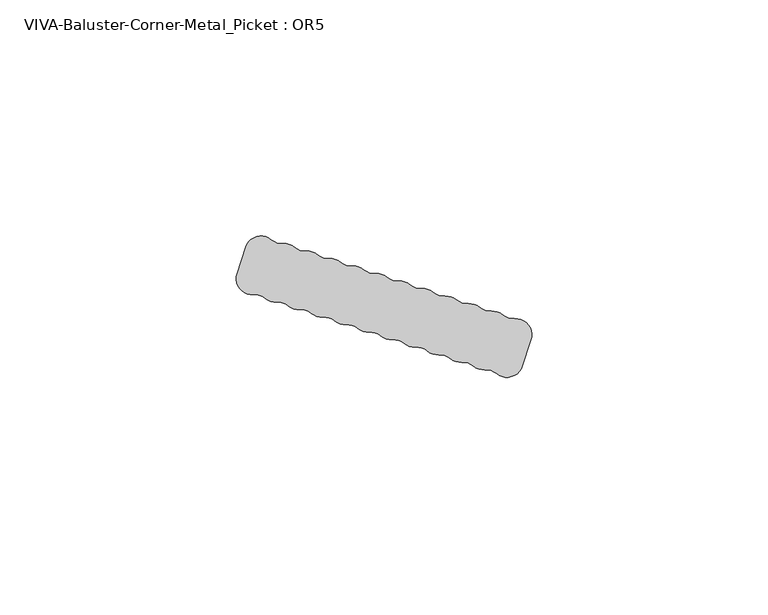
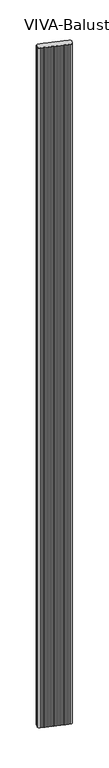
"""IFC4 building model written with IfcOpenShell, lengths in millimetres: railing geometry, VIVA-Baluster-Corner-Metal_Picket : OR5."""

from ifc_helpers import new_model, si_unit, frame, origin, place, context, project, spatial, polyline, circle_curve, source, transform, mapped, element, save
from ifc_brep_helpers import plane_surface, cylinder_surface, revolved_surface, advanced_brep


def viva_baluster_corner_metal_picket_or5_7f4c381b(model_context):
    return source(origin(), model_context, "Body", "AdvancedBrep", [
        advanced_brep(
        [(54.1877137, 238.5610945, 1219.2), (55.9877943, 244.1011728, 1219.2), (52.4796392, 248.5924811, 1219.2), (50.0317415, 249.3878513, 1219.2), (47.5838438, 250.1832215, 1219.2), (45.1359461, 250.9785917, 1219.2), (42.6880484, 251.7739618, 1219.2), (40.2401507, 252.569332, 1219.2), (37.792253, 253.3647022, 1219.2), (35.3443553, 254.1600724, 1219.2), (32.8964576, 254.9554425, 1219.2), (30.4485599, 255.7508127, 1219.2), (28.0006622, 256.5461829, 1219.2), (25.5527645, 257.3415531, 1219.2), (23.1048668, 258.1369232, 1219.2), (20.6569691, 258.9322934, 1219.2), (18.2090714, 259.7276636, 1219.2), (15.7611737, 260.5230338, 1219.2), (13.313276, 261.318404, 1219.2), (10.8653783, 262.1137741, 1219.2), (8.4174806, 262.9091443, 1219.2), (5.9695829, 263.7045145, 1219.2), (3.5216852, 264.4998847, 1219.2), (1.0737875, 265.2952548, 1219.2), (-4.4042945, 263.723752, 1219.2), (-6.204375, 258.1836736, 1219.2), (-2.6962199, 253.6923653, 1219.2), (-0.2483222, 252.8969952, 1219.2), (2.1995755, 252.101625, 1219.2), (4.6474732, 251.3062548, 1219.2), (7.0953709, 250.5108846, 1219.2), (9.5432686, 249.7155145, 1219.2), (11.9911663, 248.9201443, 1219.2), (14.439064, 248.1247741, 1219.2), (16.8869617, 247.3294039, 1219.2), (19.3348594, 246.5340337, 1219.2), (21.7827571, 245.7386636, 1219.2), (24.2306548, 244.9432934, 1219.2), (26.6785525, 244.1479232, 1219.2), (29.1264502, 243.352553, 1219.2), (31.5743479, 242.5571829, 1219.2), (34.0222456, 241.7618127, 1219.2), (36.4701433, 240.9664425, 1219.2), (38.918041, 240.1710723, 1219.2), (41.3659387, 239.3757022, 1219.2), (43.8138364, 238.580332, 1219.2), (46.2617341, 237.7849618, 1219.2), (48.7096318, 236.9895916, 1219.2), (54.1877137, 238.5610945, -245.8945017), (48.7096318, 236.9895916, -245.8945017), (46.2617341, 237.7849618, -245.8945017), (43.8138364, 238.580332, -245.8945017), (41.3659387, 239.3757022, -245.8945017), (38.918041, 240.1710723, -245.8945017), (36.4701433, 240.9664425, -245.8945017), (34.0222456, 241.7618127, -245.8945017), (31.5743479, 242.5571829, -245.8945017), (29.1264502, 243.352553, -245.8945017), (26.6785525, 244.1479232, -245.8945017), (24.2306548, 244.9432934, -245.8945017), (21.7827571, 245.7386636, -245.8945017), (19.3348594, 246.5340337, -245.8945017), (16.8869617, 247.3294039, -245.8945017), (14.439064, 248.1247741, -245.8945017), (11.9911663, 248.9201443, -245.8945017), (9.5432686, 249.7155145, -245.8945017), (7.0953709, 250.5108846, -245.8945017), (4.6474732, 251.3062548, -245.8945017), (2.1995755, 252.101625, -245.8945017), (-0.2483222, 252.8969952, -245.8945017), (-2.6962199, 253.6923653, -245.8945017), (-6.204375, 258.1836736, -245.8945017), (-4.4042945, 263.723752, -245.8945017), (1.0737875, 265.2952548, -245.8945017), (3.5216852, 264.4998847, -245.8945017), (5.9695829, 263.7045145, -245.8945017), (8.4174806, 262.9091443, -245.8945017), (10.8653783, 262.1137741, -245.8945017), (13.313276, 261.318404, -245.8945017), (15.7611737, 260.5230338, -245.8945017), (18.2090714, 259.7276636, -245.8945017), (20.6569691, 258.9322934, -245.8945017), (23.1048668, 258.1369232, -245.8945017), (25.5527645, 257.3415531, -245.8945017), (28.0006622, 256.5461829, -245.8945017), (30.4485599, 255.7508127, -245.8945017), (32.8964576, 254.9554425, -245.8945017), (35.3443553, 254.1600724, -245.8945017), (37.792253, 253.3647022, -245.8945017), (40.2401507, 252.569332, -245.8945017), (42.6880484, 251.7739618, -245.8945017), (45.1359461, 250.9785917, -245.8945017), (47.5838438, 250.1832215, -245.8945017), (50.0317415, 249.3878513, -245.8945017), (52.4796392, 248.5924811, -245.8945017), (55.9877943, 244.1011728, -245.8945017)],
        [
            (0, 1),
            (1, 2, circle_curve(frame((52.7186246, 245.1633905, 1219.2), z_axis=(0.0, 0.0, 1.0), x_axis=(1.0, 0.0, 0.0)), 3.4374084)),
            (2, 3, circle_curve(frame((52.2406537, 252.0215718, 1219.2), z_axis=(0.0, 0.0, -1.0), x_axis=(1.0, 0.0, 0.0)), 3.4374084)),
            (3, 4, circle_curve(frame((47.8228292, 246.7541308, 1219.2), z_axis=(0.0, 0.0, 1.0), x_axis=(1.0, 0.0, 0.0)), 3.4374084)),
            (4, 5, circle_curve(frame((47.3448583, 253.6123121, 1219.2), z_axis=(0.0, 0.0, -1.0), x_axis=(1.0, 0.0, 0.0)), 3.4374084)),
            (5, 6, circle_curve(frame((42.9270338, 248.3448712, 1219.2), z_axis=(0.0, 0.0, 1.0), x_axis=(1.0, 0.0, 0.0)), 3.4374084)),
            (6, 7, circle_curve(frame((42.4490629, 255.2030525, 1219.2), z_axis=(0.0, 0.0, -1.0), x_axis=(1.0, 0.0, 0.0)), 3.4374084)),
            (7, 8, circle_curve(frame((38.0312384, 249.9356115, 1219.2), z_axis=(0.0, 0.0, 1.0), x_axis=(1.0, 0.0, 0.0)), 3.4374084)),
            (8, 9, circle_curve(frame((37.5532675, 256.7937928, 1219.2), z_axis=(0.0, 0.0, -1.0), x_axis=(1.0, 0.0, 0.0)), 3.4374084)),
            (9, 10, circle_curve(frame((33.135443, 251.5263519, 1219.2), z_axis=(0.0, 0.0, 1.0), x_axis=(1.0, 0.0, 0.0)), 3.4374084)),
            (10, 11, circle_curve(frame((32.6574721, 258.3845332, 1219.2), z_axis=(0.0, 0.0, -1.0), x_axis=(1.0, 0.0, 0.0)), 3.4374084)),
            (11, 12, circle_curve(frame((28.2396476, 253.1170922, 1219.2), z_axis=(0.0, 0.0, 1.0), x_axis=(1.0, 0.0, 0.0)), 3.4374084)),
            (12, 13, circle_curve(frame((27.7616767, 259.9752735, 1219.2), z_axis=(0.0, 0.0, -1.0), x_axis=(1.0, 0.0, 0.0)), 3.4374084)),
            (13, 14, circle_curve(frame((23.3438522, 254.7078326, 1219.2), z_axis=(0.0, 0.0, 1.0), x_axis=(1.0, 0.0, 0.0)), 3.4374084)),
            (14, 15, circle_curve(frame((22.8658813, 261.5660139, 1219.2), z_axis=(0.0, 0.0, -1.0), x_axis=(1.0, 0.0, 0.0)), 3.4374084)),
            (15, 16, circle_curve(frame((18.4480568, 256.298573, 1219.2), z_axis=(0.0, 0.0, 1.0), x_axis=(1.0, 0.0, 0.0)), 3.4374084)),
            (16, 17, circle_curve(frame((17.9700859, 263.1567543, 1219.2), z_axis=(0.0, 0.0, -1.0), x_axis=(1.0, 0.0, 0.0)), 3.4374084)),
            (17, 18, circle_curve(frame((13.5522614, 257.8893133, 1219.2), z_axis=(0.0, 0.0, 1.0), x_axis=(1.0, 0.0, 0.0)), 3.4374084)),
            (18, 19, circle_curve(frame((13.0742905, 264.7474946, 1219.2), z_axis=(0.0, 0.0, -1.0), x_axis=(1.0, 0.0, 0.0)), 3.4374084)),
            (19, 20, circle_curve(frame((8.656466, 259.4800537, 1219.2), z_axis=(0.0, 0.0, 1.0), x_axis=(1.0, 0.0, 0.0)), 3.4374084)),
            (20, 21, circle_curve(frame((8.1784951, 266.338235, 1219.2), z_axis=(0.0, 0.0, -1.0), x_axis=(1.0, 0.0, 0.0)), 3.4374084)),
            (21, 22, circle_curve(frame((3.7606706, 261.070794, 1219.2), z_axis=(0.0, 0.0, 1.0), x_axis=(1.0, 0.0, 0.0)), 3.4374084)),
            (22, 23, circle_curve(frame((3.2826997, 267.9289753, 1219.2), z_axis=(0.0, 0.0, -1.0), x_axis=(1.0, 0.0, 0.0)), 3.4374084)),
            (23, 24, circle_curve(frame((-1.1351248, 262.6615344, 1219.2), z_axis=(0.0, 0.0, 1.0), x_axis=(1.0, 0.0, 0.0)), 3.4374084)),
            (24, 25),
            (25, 26, circle_curve(frame((-2.9352053, 257.121456, 1219.2), z_axis=(0.0, 0.0, 1.0), x_axis=(1.0, 0.0, 0.0)), 3.4374084)),
            (26, 27, circle_curve(frame((-2.4572344, 250.2632747, 1219.2), z_axis=(0.0, 0.0, -1.0), x_axis=(1.0, 0.0, 0.0)), 3.4374084)),
            (27, 28, circle_curve(frame((1.9605901, 255.5307156, 1219.2), z_axis=(0.0, 0.0, 1.0), x_axis=(1.0, 0.0, 0.0)), 3.4374084)),
            (28, 29, circle_curve(frame((2.438561, 248.6725343, 1219.2), z_axis=(0.0, 0.0, -1.0), x_axis=(1.0, 0.0, 0.0)), 3.4374084)),
            (29, 30, circle_curve(frame((6.8563855, 253.9399753, 1219.2), z_axis=(0.0, 0.0, 1.0), x_axis=(1.0, 0.0, 0.0)), 3.4374084)),
            (30, 31, circle_curve(frame((7.3343564, 247.081794, 1219.2), z_axis=(0.0, 0.0, -1.0), x_axis=(1.0, 0.0, 0.0)), 3.4374084)),
            (31, 32, circle_curve(frame((11.7521809, 252.3492349, 1219.2), z_axis=(0.0, 0.0, 1.0), x_axis=(1.0, 0.0, 0.0)), 3.4374084)),
            (32, 33, circle_curve(frame((12.2301518, 245.4910536, 1219.2), z_axis=(0.0, 0.0, -1.0), x_axis=(1.0, 0.0, 0.0)), 3.4374084)),
            (33, 34, circle_curve(frame((16.6479763, 250.7584946, 1219.2), z_axis=(0.0, 0.0, 1.0), x_axis=(1.0, 0.0, 0.0)), 3.4374084)),
            (34, 35, circle_curve(frame((17.1259472, 243.9003133, 1219.2), z_axis=(0.0, 0.0, -1.0), x_axis=(1.0, 0.0, 0.0)), 3.4374084)),
            (35, 36, circle_curve(frame((21.5437717, 249.1677542, 1219.2), z_axis=(0.0, 0.0, 1.0), x_axis=(1.0, 0.0, 0.0)), 3.4374084)),
            (36, 37, circle_curve(frame((22.0217426, 242.3095729, 1219.2), z_axis=(0.0, 0.0, -1.0), x_axis=(1.0, 0.0, 0.0)), 3.4374084)),
            (37, 38, circle_curve(frame((26.4395671, 247.5770139, 1219.2), z_axis=(0.0, 0.0, 1.0), x_axis=(1.0, 0.0, 0.0)), 3.4374084)),
            (38, 39, circle_curve(frame((26.917538, 240.7188326, 1219.2), z_axis=(0.0, 0.0, -1.0), x_axis=(1.0, 0.0, 0.0)), 3.4374084)),
            (39, 40, circle_curve(frame((31.3353625, 245.9862735, 1219.2), z_axis=(0.0, 0.0, 1.0), x_axis=(1.0, 0.0, 0.0)), 3.4374084)),
            (40, 41, circle_curve(frame((31.8133334, 239.1280922, 1219.2), z_axis=(0.0, 0.0, -1.0), x_axis=(1.0, 0.0, 0.0)), 3.4374084)),
            (41, 42, circle_curve(frame((36.2311579, 244.3955332, 1219.2), z_axis=(0.0, 0.0, 1.0), x_axis=(1.0, 0.0, 0.0)), 3.4374084)),
            (42, 43, circle_curve(frame((36.7091288, 237.5373519, 1219.2), z_axis=(0.0, 0.0, -1.0), x_axis=(1.0, 0.0, 0.0)), 3.4374084)),
            (43, 44, circle_curve(frame((41.1269533, 242.8047928, 1219.2), z_axis=(0.0, 0.0, 1.0), x_axis=(1.0, 0.0, 0.0)), 3.4374084)),
            (44, 45, circle_curve(frame((41.6049242, 235.9466115, 1219.2), z_axis=(0.0, 0.0, -1.0), x_axis=(1.0, 0.0, 0.0)), 3.4374084)),
            (45, 46, circle_curve(frame((46.0227487, 241.2140525, 1219.2), z_axis=(0.0, 0.0, 1.0), x_axis=(1.0, 0.0, 0.0)), 3.4374084)),
            (46, 47, circle_curve(frame((46.5007196, 234.3558712, 1219.2), z_axis=(0.0, 0.0, -1.0), x_axis=(1.0, 0.0, 0.0)), 3.4374084)),
            (47, 0, circle_curve(frame((50.9185441, 239.6233121, 1219.2), z_axis=(0.0, 0.0, 1.0), x_axis=(1.0, 0.0, 0.0)), 3.4374084)),
            (48, 49, circle_curve(frame((50.9185441, 239.6233121, -245.8945017), z_axis=(0.0, 0.0, -1.0), x_axis=(1.0, 0.0, 0.0)), 3.4374084)),
            (49, 50, circle_curve(frame((46.5007196, 234.3558712, -245.8945017), z_axis=(0.0, 0.0, 1.0), x_axis=(1.0, 0.0, 0.0)), 3.4374084)),
            (50, 51, circle_curve(frame((46.0227487, 241.2140525, -245.8945017), z_axis=(0.0, 0.0, -1.0), x_axis=(1.0, 0.0, 0.0)), 3.4374084)),
            (51, 52, circle_curve(frame((41.6049242, 235.9466115, -245.8945017), z_axis=(0.0, 0.0, 1.0), x_axis=(1.0, 0.0, 0.0)), 3.4374084)),
            (52, 53, circle_curve(frame((41.1269533, 242.8047928, -245.8945017), z_axis=(0.0, 0.0, -1.0), x_axis=(1.0, 0.0, 0.0)), 3.4374084)),
            (53, 54, circle_curve(frame((36.7091288, 237.5373519, -245.8945017), z_axis=(0.0, 0.0, 1.0), x_axis=(1.0, 0.0, 0.0)), 3.4374084)),
            (54, 55, circle_curve(frame((36.2311579, 244.3955332, -245.8945017), z_axis=(0.0, 0.0, -1.0), x_axis=(1.0, 0.0, 0.0)), 3.4374084)),
            (55, 56, circle_curve(frame((31.8133334, 239.1280922, -245.8945017), z_axis=(0.0, 0.0, 1.0), x_axis=(1.0, 0.0, 0.0)), 3.4374084)),
            (56, 57, circle_curve(frame((31.3353625, 245.9862735, -245.8945017), z_axis=(0.0, 0.0, -1.0), x_axis=(1.0, 0.0, 0.0)), 3.4374084)),
            (57, 58, circle_curve(frame((26.917538, 240.7188326, -245.8945017), z_axis=(0.0, 0.0, 1.0), x_axis=(1.0, 0.0, 0.0)), 3.4374084)),
            (58, 59, circle_curve(frame((26.4395671, 247.5770139, -245.8945017), z_axis=(0.0, 0.0, -1.0), x_axis=(1.0, 0.0, 0.0)), 3.4374084)),
            (59, 60, circle_curve(frame((22.0217426, 242.3095729, -245.8945017), z_axis=(0.0, 0.0, 1.0), x_axis=(1.0, 0.0, 0.0)), 3.4374084)),
            (60, 61, circle_curve(frame((21.5437717, 249.1677542, -245.8945017), z_axis=(0.0, 0.0, -1.0), x_axis=(1.0, 0.0, 0.0)), 3.4374084)),
            (61, 62, circle_curve(frame((17.1259472, 243.9003133, -245.8945017), z_axis=(0.0, 0.0, 1.0), x_axis=(1.0, 0.0, 0.0)), 3.4374084)),
            (62, 63, circle_curve(frame((16.6479763, 250.7584946, -245.8945017), z_axis=(0.0, 0.0, -1.0), x_axis=(1.0, 0.0, 0.0)), 3.4374084)),
            (63, 64, circle_curve(frame((12.2301518, 245.4910536, -245.8945017), z_axis=(0.0, 0.0, 1.0), x_axis=(1.0, 0.0, 0.0)), 3.4374084)),
            (64, 65, circle_curve(frame((11.7521809, 252.3492349, -245.8945017), z_axis=(0.0, 0.0, -1.0), x_axis=(1.0, 0.0, 0.0)), 3.4374084)),
            (65, 66, circle_curve(frame((7.3343564, 247.081794, -245.8945017), z_axis=(0.0, 0.0, 1.0), x_axis=(1.0, 0.0, 0.0)), 3.4374084)),
            (66, 67, circle_curve(frame((6.8563855, 253.9399753, -245.8945017), z_axis=(0.0, 0.0, -1.0), x_axis=(1.0, 0.0, 0.0)), 3.4374084)),
            (67, 68, circle_curve(frame((2.438561, 248.6725343, -245.8945017), z_axis=(0.0, 0.0, 1.0), x_axis=(1.0, 0.0, 0.0)), 3.4374084)),
            (68, 69, circle_curve(frame((1.9605901, 255.5307156, -245.8945017), z_axis=(0.0, 0.0, -1.0), x_axis=(1.0, 0.0, 0.0)), 3.4374084)),
            (69, 70, circle_curve(frame((-2.4572344, 250.2632747, -245.8945017), z_axis=(0.0, 0.0, 1.0), x_axis=(1.0, 0.0, 0.0)), 3.4374084)),
            (70, 71, circle_curve(frame((-2.9352053, 257.121456, -245.8945017), z_axis=(0.0, 0.0, -1.0), x_axis=(1.0, 0.0, 0.0)), 3.4374084)),
            (71, 72),
            (72, 73, circle_curve(frame((-1.1351248, 262.6615344, -245.8945017), z_axis=(0.0, 0.0, -1.0), x_axis=(1.0, 0.0, 0.0)), 3.4374084)),
            (73, 74, circle_curve(frame((3.2826997, 267.9289753, -245.8945017), z_axis=(0.0, 0.0, 1.0), x_axis=(1.0, 0.0, 0.0)), 3.4374084)),
            (74, 75, circle_curve(frame((3.7606706, 261.070794, -245.8945017), z_axis=(0.0, 0.0, -1.0), x_axis=(1.0, 0.0, 0.0)), 3.4374084)),
            (75, 76, circle_curve(frame((8.1784951, 266.338235, -245.8945017), z_axis=(0.0, 0.0, 1.0), x_axis=(1.0, 0.0, 0.0)), 3.4374084)),
            (76, 77, circle_curve(frame((8.656466, 259.4800537, -245.8945017), z_axis=(0.0, 0.0, -1.0), x_axis=(1.0, 0.0, 0.0)), 3.4374084)),
            (77, 78, circle_curve(frame((13.0742905, 264.7474946, -245.8945017), z_axis=(0.0, 0.0, 1.0), x_axis=(1.0, 0.0, 0.0)), 3.4374084)),
            (78, 79, circle_curve(frame((13.5522614, 257.8893133, -245.8945017), z_axis=(0.0, 0.0, -1.0), x_axis=(1.0, 0.0, 0.0)), 3.4374084)),
            (79, 80, circle_curve(frame((17.9700859, 263.1567543, -245.8945017), z_axis=(0.0, 0.0, 1.0), x_axis=(1.0, 0.0, 0.0)), 3.4374084)),
            (80, 81, circle_curve(frame((18.4480568, 256.298573, -245.8945017), z_axis=(0.0, 0.0, -1.0), x_axis=(1.0, 0.0, 0.0)), 3.4374084)),
            (81, 82, circle_curve(frame((22.8658813, 261.5660139, -245.8945017), z_axis=(0.0, 0.0, 1.0), x_axis=(1.0, 0.0, 0.0)), 3.4374084)),
            (82, 83, circle_curve(frame((23.3438522, 254.7078326, -245.8945017), z_axis=(0.0, 0.0, -1.0), x_axis=(1.0, 0.0, 0.0)), 3.4374084)),
            (83, 84, circle_curve(frame((27.7616767, 259.9752735, -245.8945017), z_axis=(0.0, 0.0, 1.0), x_axis=(1.0, 0.0, 0.0)), 3.4374084)),
            (84, 85, circle_curve(frame((28.2396476, 253.1170922, -245.8945017), z_axis=(0.0, 0.0, -1.0), x_axis=(1.0, 0.0, 0.0)), 3.4374084)),
            (85, 86, circle_curve(frame((32.6574721, 258.3845332, -245.8945017), z_axis=(0.0, 0.0, 1.0), x_axis=(1.0, 0.0, 0.0)), 3.4374084)),
            (86, 87, circle_curve(frame((33.135443, 251.5263519, -245.8945017), z_axis=(0.0, 0.0, -1.0), x_axis=(1.0, 0.0, 0.0)), 3.4374084)),
            (87, 88, circle_curve(frame((37.5532675, 256.7937928, -245.8945017), z_axis=(0.0, 0.0, 1.0), x_axis=(1.0, 0.0, 0.0)), 3.4374084)),
            (88, 89, circle_curve(frame((38.0312384, 249.9356115, -245.8945017), z_axis=(0.0, 0.0, -1.0), x_axis=(1.0, 0.0, 0.0)), 3.4374084)),
            (89, 90, circle_curve(frame((42.4490629, 255.2030525, -245.8945017), z_axis=(0.0, 0.0, 1.0), x_axis=(1.0, 0.0, 0.0)), 3.4374084)),
            (90, 91, circle_curve(frame((42.9270338, 248.3448712, -245.8945017), z_axis=(0.0, 0.0, -1.0), x_axis=(1.0, 0.0, 0.0)), 3.4374084)),
            (91, 92, circle_curve(frame((47.3448583, 253.6123121, -245.8945017), z_axis=(0.0, 0.0, 1.0), x_axis=(1.0, 0.0, 0.0)), 3.4374084)),
            (92, 93, circle_curve(frame((47.8228292, 246.7541308, -245.8945017), z_axis=(0.0, 0.0, -1.0), x_axis=(1.0, 0.0, 0.0)), 3.4374084)),
            (93, 94, circle_curve(frame((52.2406537, 252.0215718, -245.8945017), z_axis=(0.0, 0.0, 1.0), x_axis=(1.0, 0.0, 0.0)), 3.4374084)),
            (94, 95, circle_curve(frame((52.7186246, 245.1633905, -245.8945017), z_axis=(0.0, 0.0, -1.0), x_axis=(1.0, 0.0, 0.0)), 3.4374084)),
            (95, 48),
            (0, 48),
            (95, 1),
            (94, 2),
            (93, 3),
            (92, 4),
            (91, 5),
            (90, 6),
            (89, 7),
            (88, 8),
            (87, 9),
            (86, 10),
            (85, 11),
            (84, 12),
            (83, 13),
            (82, 14),
            (81, 15),
            (80, 16),
            (79, 17),
            (78, 18),
            (77, 19),
            (76, 20),
            (75, 21),
            (74, 22),
            (73, 23),
            (72, 24),
            (71, 25),
            (70, 26),
            (69, 27),
            (68, 28),
            (67, 29),
            (66, 30),
            (65, 31),
            (64, 32),
            (63, 33),
            (62, 34),
            (61, 35),
            (60, 36),
            (59, 37),
            (58, 38),
            (57, 39),
            (56, 40),
            (55, 41),
            (54, 42),
            (53, 43),
            (52, 44),
            (51, 45),
            (50, 46),
            (49, 47),
        ],
        [
            plane_surface(frame((54.1877137, 238.5610945, 1219.2), z_axis=(0.0, 0.0, 1.0000000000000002), x_axis=(0.3090169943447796, 0.9510565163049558, 0.0))),
            plane_surface(frame((54.1877137, 238.5610945, -245.8945017), z_axis=(0.0, 0.0, -1.0000000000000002), x_axis=(-0.3090169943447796, -0.9510565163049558, 0.0))),
            plane_surface(frame((54.1877137, 238.5610945, 1219.2), z_axis=(0.9510565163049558, -0.3090169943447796, 0.0), x_axis=(0.0, 0.0, -1.0))),
            cylinder_surface(frame((52.7186246, 245.1633905, -245.8945017), z_axis=(0.0, 0.0, 1.0), x_axis=(1.0, 0.0, 0.0)), 3.4374084),
            revolved_surface(polyline([(55.678062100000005, 252.0215718, -245.8945017), (55.678062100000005, 252.0215718, 1219.2)]), (52.2406537, 252.0215718, -245.8945017), (0.0, 0.0, -1.0)),
            cylinder_surface(frame((47.8228292, 246.7541308, -245.8945017), z_axis=(0.0, 0.0, 1.0), x_axis=(1.0, 0.0, 0.0)), 3.4374084),
            revolved_surface(polyline([(50.7822667, 253.6123121, -245.8945017), (50.7822667, 253.6123121, 1219.2)]), (47.3448583, 253.6123121, -245.8945017), (0.0, 0.0, -1.0)),
            cylinder_surface(frame((42.9270338, 248.3448712, -245.8945017), z_axis=(0.0, 0.0, 1.0), x_axis=(1.0, 0.0, 0.0)), 3.4374084),
            revolved_surface(polyline([(45.886471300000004, 255.2030525, -245.8945017), (45.886471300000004, 255.2030525, 1219.2)]), (42.4490629, 255.2030525, -245.8945017), (0.0, 0.0, -1.0)),
            cylinder_surface(frame((38.0312384, 249.9356115, -245.8945017), z_axis=(0.0, 0.0, 1.0), x_axis=(1.0, 0.0, 0.0)), 3.4374084),
            revolved_surface(polyline([(40.9906759, 256.7937928, -245.8945017), (40.9906759, 256.7937928, 1219.2)]), (37.5532675, 256.7937928, -245.8945017), (0.0, 0.0, -1.0)),
            cylinder_surface(frame((33.135443, 251.5263519, -245.8945017), z_axis=(0.0, 0.0, 1.0), x_axis=(1.0, 0.0, 0.0)), 3.4374084),
            revolved_surface(polyline([(36.0948805, 258.3845332, -245.8945017), (36.0948805, 258.3845332, 1219.2)]), (32.6574721, 258.3845332, -245.8945017), (0.0, 0.0, -1.0)),
            cylinder_surface(frame((28.2396476, 253.1170922, -245.8945017), z_axis=(0.0, 0.0, 1.0), x_axis=(1.0, 0.0, 0.0)), 3.4374084),
            revolved_surface(polyline([(31.199085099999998, 259.9752735, -245.8945017), (31.199085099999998, 259.9752735, 1219.2)]), (27.7616767, 259.9752735, -245.8945017), (0.0, 0.0, -1.0)),
            cylinder_surface(frame((23.3438522, 254.7078326, -245.8945017), z_axis=(0.0, 0.0, 1.0), x_axis=(1.0, 0.0, 0.0)), 3.4374084),
            revolved_surface(polyline([(26.3032897, 261.5660139, -245.8945017), (26.3032897, 261.5660139, 1219.2)]), (22.8658813, 261.5660139, -245.8945017), (0.0, 0.0, -1.0)),
            cylinder_surface(frame((18.4480568, 256.298573, -245.8945017), z_axis=(0.0, 0.0, 1.0), x_axis=(1.0, 0.0, 0.0)), 3.4374084),
            revolved_surface(polyline([(21.4074943, 263.1567543, -245.8945017), (21.4074943, 263.1567543, 1219.2)]), (17.9700859, 263.1567543, -245.8945017), (0.0, 0.0, -1.0)),
            cylinder_surface(frame((13.5522614, 257.8893133, -245.8945017), z_axis=(0.0, 0.0, 1.0), x_axis=(1.0, 0.0, 0.0)), 3.4374084),
            revolved_surface(polyline([(16.5116989, 264.7474946, -245.8945017), (16.5116989, 264.7474946, 1219.2)]), (13.0742905, 264.7474946, -245.8945017), (0.0, 0.0, -1.0)),
            cylinder_surface(frame((8.656466, 259.4800537, -245.8945017), z_axis=(0.0, 0.0, 1.0), x_axis=(1.0, 0.0, 0.0)), 3.4374084),
            revolved_surface(polyline([(11.615903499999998, 266.338235, -245.8945017), (11.615903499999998, 266.338235, 1219.2)]), (8.1784951, 266.338235, -245.8945017), (0.0, 0.0, -1.0)),
            cylinder_surface(frame((3.7606706, 261.070794, -245.8945017), z_axis=(0.0, 0.0, 1.0), x_axis=(1.0, 0.0, 0.0)), 3.4374084),
            revolved_surface(polyline([(6.7201081, 267.9289753, -245.8945017), (6.7201081, 267.9289753, 1219.2)]), (3.2826997, 267.9289753, -245.8945017), (0.0, 0.0, -1.0)),
            cylinder_surface(frame((-1.1351248, 262.6615344, -245.8945017), z_axis=(0.0, 0.0, 1.0), x_axis=(1.0, 0.0, 0.0)), 3.4374084),
            plane_surface(frame((-4.4042945, 263.723752, 1219.2), z_axis=(-0.9510565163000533, 0.3090169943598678, 0.0), x_axis=(0.0, 0.0, -1.0))),
            cylinder_surface(frame((-2.9352053, 257.121456, -245.8945017), z_axis=(0.0, 0.0, 1.0), x_axis=(1.0, 0.0, 0.0)), 3.4374084),
            revolved_surface(polyline([(0.9801739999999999, 250.2632747, -245.8945017), (0.9801739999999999, 250.2632747, 1219.2)]), (-2.4572344, 250.2632747, -245.8945017), (0.0, 0.0, -1.0)),
            cylinder_surface(frame((1.9605901, 255.5307156, -245.8945017), z_axis=(0.0, 0.0, 1.0), x_axis=(1.0, 0.0, 0.0)), 3.4374084),
            revolved_surface(polyline([(5.8759694, 248.6725343, -245.8945017), (5.8759694, 248.6725343, 1219.2)]), (2.438561, 248.6725343, -245.8945017), (0.0, 0.0, -1.0)),
            cylinder_surface(frame((6.8563855, 253.9399753, -245.8945017), z_axis=(0.0, 0.0, 1.0), x_axis=(1.0, 0.0, 0.0)), 3.4374084),
            revolved_surface(polyline([(10.7717648, 247.081794, -245.8945017), (10.7717648, 247.081794, 1219.2)]), (7.3343564, 247.081794, -245.8945017), (0.0, 0.0, -1.0)),
            cylinder_surface(frame((11.7521809, 252.3492349, -245.8945017), z_axis=(0.0, 0.0, 1.0), x_axis=(1.0, 0.0, 0.0)), 3.4374084),
            revolved_surface(polyline([(15.6675602, 245.4910536, -245.8945017), (15.6675602, 245.4910536, 1219.2)]), (12.2301518, 245.4910536, -245.8945017), (0.0, 0.0, -1.0)),
            cylinder_surface(frame((16.6479763, 250.7584946, -245.8945017), z_axis=(0.0, 0.0, 1.0), x_axis=(1.0, 0.0, 0.0)), 3.4374084),
            revolved_surface(polyline([(20.563355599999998, 243.9003133, -245.8945017), (20.563355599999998, 243.9003133, 1219.2)]), (17.1259472, 243.9003133, -245.8945017), (0.0, 0.0, -1.0)),
            cylinder_surface(frame((21.5437717, 249.1677542, -245.8945017), z_axis=(0.0, 0.0, 1.0), x_axis=(1.0, 0.0, 0.0)), 3.4374084),
            revolved_surface(polyline([(25.459151, 242.3095729, -245.8945017), (25.459151, 242.3095729, 1219.2)]), (22.0217426, 242.3095729, -245.8945017), (0.0, 0.0, -1.0)),
            cylinder_surface(frame((26.4395671, 247.5770139, -245.8945017), z_axis=(0.0, 0.0, 1.0), x_axis=(1.0, 0.0, 0.0)), 3.4374084),
            revolved_surface(polyline([(30.3549464, 240.7188326, -245.8945017), (30.3549464, 240.7188326, 1219.2)]), (26.917538, 240.7188326, -245.8945017), (0.0, 0.0, -1.0)),
            cylinder_surface(frame((31.3353625, 245.9862735, -245.8945017), z_axis=(0.0, 0.0, 1.0), x_axis=(1.0, 0.0, 0.0)), 3.4374084),
            revolved_surface(polyline([(35.2507418, 239.1280922, -245.8945017), (35.2507418, 239.1280922, 1219.2)]), (31.8133334, 239.1280922, -245.8945017), (0.0, 0.0, -1.0)),
            cylinder_surface(frame((36.2311579, 244.3955332, -245.8945017), z_axis=(0.0, 0.0, 1.0), x_axis=(1.0, 0.0, 0.0)), 3.4374084),
            revolved_surface(polyline([(40.146537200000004, 237.5373519, -245.8945017), (40.146537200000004, 237.5373519, 1219.2)]), (36.7091288, 237.5373519, -245.8945017), (0.0, 0.0, -1.0)),
            cylinder_surface(frame((41.1269533, 242.8047928, -245.8945017), z_axis=(0.0, 0.0, 1.0), x_axis=(1.0, 0.0, 0.0)), 3.4374084),
            revolved_surface(polyline([(45.0423326, 235.9466115, -245.8945017), (45.0423326, 235.9466115, 1219.2)]), (41.6049242, 235.9466115, -245.8945017), (0.0, 0.0, -1.0)),
            cylinder_surface(frame((46.0227487, 241.2140525, -245.8945017), z_axis=(0.0, 0.0, 1.0), x_axis=(1.0, 0.0, 0.0)), 3.4374084),
            revolved_surface(polyline([(49.938128, 234.3558712, -245.8945017), (49.938128, 234.3558712, 1219.2)]), (46.5007196, 234.3558712, -245.8945017), (0.0, 0.0, -1.0)),
            cylinder_surface(frame((50.9185441, 239.6233121, -245.8945017), z_axis=(0.0, 0.0, 1.0), x_axis=(1.0, 0.0, 0.0)), 3.4374084),
        ],
        [
            (0, [[1, 2, 3, 4, 5, 6, 7, 8, 9, 10, 11, 12, 13, 14, 15, 16, 17, 18, 19, 20, 21, 22, 23, 24, 25, 26, 27, 28, 29, 30, 31, 32, 33, 34, 35, 36, 37, 38, 39, 40, 41, 42, 43, 44, 45, 46, 47, 48]]),
            (1, [[49, 50, 51, 52, 53, 54, 55, 56, 57, 58, 59, 60, 61, 62, 63, 64, 65, 66, 67, 68, 69, 70, 71, 72, 73, 74, 75, 76, 77, 78, 79, 80, 81, 82, 83, 84, 85, 86, 87, 88, 89, 90, 91, 92, 93, 94, 95, 96]]),
            (2, [[-1, 97, -96, 98]]),
            (3, [[-2, -98, -95, 99]]),
            (4, [[-3, -99, -94, 100]]),
            (5, [[-4, -100, -93, 101]]),
            (6, [[-5, -101, -92, 102]]),
            (7, [[-6, -102, -91, 103]]),
            (8, [[-7, -103, -90, 104]]),
            (9, [[-8, -104, -89, 105]]),
            (10, [[-9, -105, -88, 106]]),
            (11, [[-10, -106, -87, 107]]),
            (12, [[-11, -107, -86, 108]]),
            (13, [[-12, -108, -85, 109]]),
            (14, [[-13, -109, -84, 110]]),
            (15, [[-14, -110, -83, 111]]),
            (16, [[-15, -111, -82, 112]]),
            (17, [[-16, -112, -81, 113]]),
            (18, [[-17, -113, -80, 114]]),
            (19, [[-18, -114, -79, 115]]),
            (20, [[-19, -115, -78, 116]]),
            (21, [[-20, -116, -77, 117]]),
            (22, [[-21, -117, -76, 118]]),
            (23, [[-22, -118, -75, 119]]),
            (24, [[-23, -119, -74, 120]]),
            (25, [[-24, -120, -73, 121]]),
            (26, [[-25, -121, -72, 122]]),
            (27, [[-26, -122, -71, 123]]),
            (28, [[-27, -123, -70, 124]]),
            (29, [[-28, -124, -69, 125]]),
            (30, [[-29, -125, -68, 126]]),
            (31, [[-30, -126, -67, 127]]),
            (32, [[-31, -127, -66, 128]]),
            (33, [[-32, -128, -65, 129]]),
            (34, [[-33, -129, -64, 130]]),
            (35, [[-34, -130, -63, 131]]),
            (36, [[-35, -131, -62, 132]]),
            (37, [[-36, -132, -61, 133]]),
            (38, [[-37, -133, -60, 134]]),
            (39, [[-38, -134, -59, 135]]),
            (40, [[-39, -135, -58, 136]]),
            (41, [[-40, -136, -57, 137]]),
            (42, [[-41, -137, -56, 138]]),
            (43, [[-42, -138, -55, 139]]),
            (44, [[-43, -139, -54, 140]]),
            (45, [[-44, -140, -53, 141]]),
            (46, [[-45, -141, -52, 142]]),
            (47, [[-46, -142, -51, 143]]),
            (48, [[-47, -143, -50, 144]]),
            (49, [[-48, -144, -49, -97]]),
        ],
    ),
    ])


if __name__ == "__main__":
    model = new_model("IFC4")
    model_context = context("Model", 3, world=origin())
    ifc_project = project(units=[si_unit("LENGTHUNIT", "METRE", prefix="MILLI")], contexts=[model_context])
    site = spatial("IfcSite", under=ifc_project)
    building = spatial("IfcBuilding", under=site)
    placement = place(None, origin())
    viva_baluster_corner_metal_picket_or5_shape = viva_baluster_corner_metal_picket_or5_7f4c381b(model_context)
    element("IfcRailing", 1, ObjectType="VIVA-Baluster-Corner-Metal_Picket : OR5", at=placement, inside=building, context=model_context, shape_type="MappedRepresentation", body=[
        mapped(viva_baluster_corner_metal_picket_or5_shape, transform((0.0, 0.0, 0.0), x_axis=(1.0, 0.0, 0.0), y_axis=(0.0, 1.0, 0.0), z_axis=(0.0, 0.0, 1.0))),
    ])
    save(model, "model.ifc")
